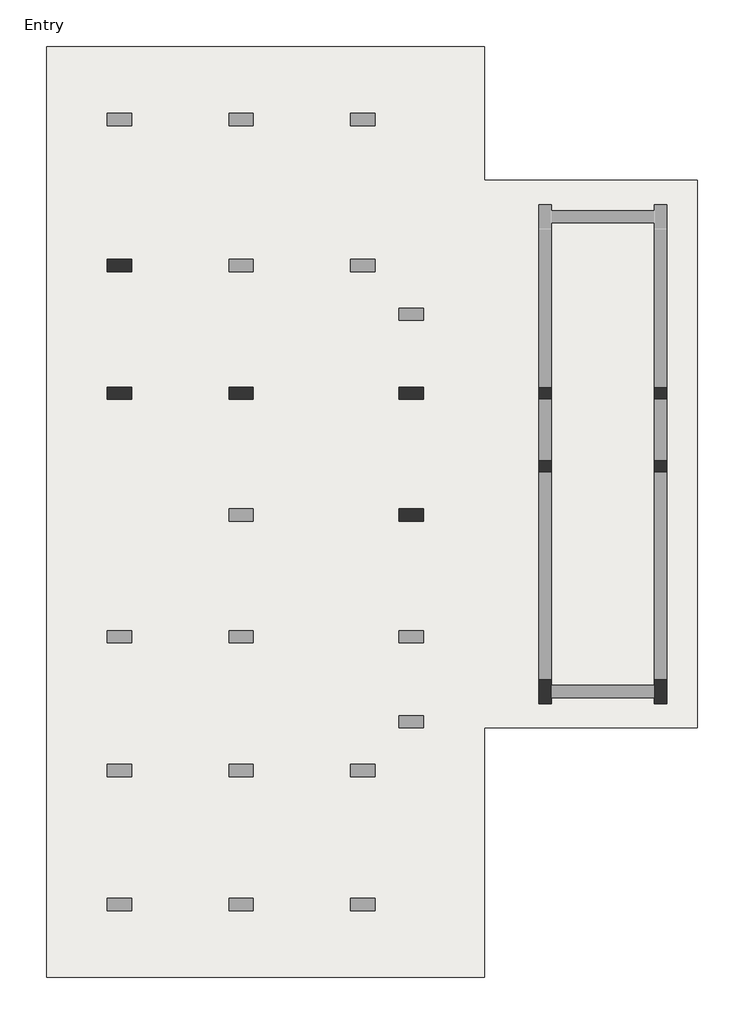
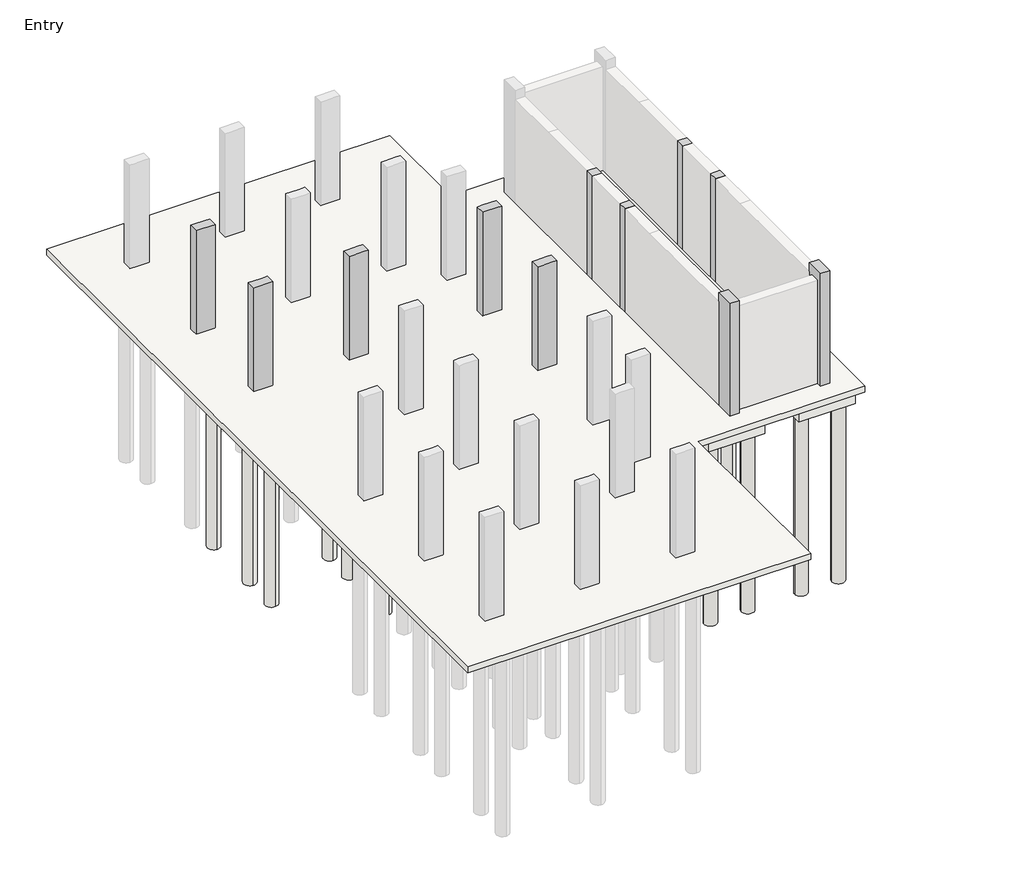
# One storey, part 2 of 3: 33 slabs, 13 columns, 4 footings.
"""IFC4 building model written with IfcOpenShell, lengths in millimetres."""

import ifcopenshell
import ifcopenshell.guid

model = None  # the IFC model being written
_history = None  # IfcOwnerHistory: only IFC2X3 demands one
_inside = {}  # id of a spatial element -> (the spatial element, [elements in it])
_under = {}  # id of a project, library or spatial element -> (it, [spatial elements below it])
_declared = {}  # id of a project -> (the project, [libraries it declares])
_typed = {}  # id of a type object -> (the type object, [elements of that type])
_made_of = {}  # id of a material, layer set ... -> (it, [elements and type objects made of it])


def new_model(schema):
    """Start an empty IFC model of exactly this schema.

    Asked for "IFC4X3", IfcOpenShell would pick the latest addendum, in which some entities
    have other attributes; the version numbers below select the first issue.
    IFC2X3 requires an IfcOwnerHistory on every rooted entity: one is made here for all.
    """
    global model, _history
    if schema == "IFC4X3":
        model = ifcopenshell.file(schema_version=(4, 3, 0, 0))
    else:
        model = ifcopenshell.file(schema=schema)
    _inside.clear()
    _under.clear()
    _declared.clear()
    _typed.clear()
    _made_of.clear()
    _history = None
    if model.schema == "IFC2X3":
        org = make("IfcOrganization", Name="unknown")
        user = make(
            "IfcPersonAndOrganization",
            ThePerson=make("IfcPerson", FamilyName="unknown"),
            TheOrganization=org,
        )
        app = make(
            "IfcApplication",
            ApplicationDeveloper=org,
            Version="unknown",
            ApplicationFullName="unknown",
            ApplicationIdentifier="unknown",
        )
        _history = make(
            "IfcOwnerHistory",
            OwningUser=user,
            OwningApplication=app,
            ChangeAction="ADDED",
            CreationDate=0,
        )
    return model


def make(cls, **values):
    """One entity of the class cls with the attributes given. An attribute that is None is left unset."""
    return model.create_entity(
        cls, **{name: value for name, value in values.items() if value is not None}
    )


def rooted(cls, **values):
    """An entity with a GlobalId (a new one), such as an element, a storey or a relation."""
    return make(cls, GlobalId=ifcopenshell.guid.new(), OwnerHistory=_history, **values)


def si_unit(unit_type, name, prefix=None):
    """IfcSIUnit, for example si_unit("LENGTHUNIT", "METRE", prefix="MILLI")."""
    return make("IfcSIUnit", UnitType=unit_type, Prefix=prefix, Name=name)


def assignment(units):
    """IfcUnitAssignment: the units of a project."""
    return None if units is None else make("IfcUnitAssignment", Units=units)


def point(xyz):
    """IfcCartesianPoint."""
    return None if xyz is None else make("IfcCartesianPoint", Coordinates=xyz)


def direction(xyz):
    """IfcDirection."""
    return None if xyz is None else make("IfcDirection", DirectionRatios=xyz)


def frame(location, z_axis=None, x_axis=None):
    """IfcAxis2Placement3D, a coordinate frame: its origin and axes. An axis left out is left unset."""
    return make(
        "IfcAxis2Placement3D",
        Location=point(location),
        Axis=direction(z_axis),
        RefDirection=direction(x_axis),
    )


def frame_2d(location, x_axis=None):
    """IfcAxis2Placement2D, a coordinate frame in the plane: its origin and x axis."""
    return make(
        "IfcAxis2Placement2D", Location=point(location), RefDirection=direction(x_axis)
    )


def origin():
    """The frame at (0, 0, 0) with its axes left unset."""
    return frame((0.0, 0.0, 0.0))


def origin_with_axes():
    """The frame at (0, 0, 0) with the z axis (0, 0, 1) and the x axis (1, 0, 0) written out."""
    return frame((0.0, 0.0, 0.0), z_axis=(0.0, 0.0, 1.0), x_axis=(1.0, 0.0, 0.0))


def place(relative_to, where):
    """IfcLocalPlacement: puts the frame where relative to a parent placement (None: the world)."""
    return make(
        "IfcLocalPlacement", PlacementRelTo=relative_to, RelativePlacement=where
    )


def context(
    kind, dimensions, precision=None, world=None, true_north=None, identifier=None
):
    """IfcGeometricRepresentationContext, for example the 3D "Model" context."""
    return make(
        "IfcGeometricRepresentationContext",
        ContextIdentifier=identifier,
        ContextType=kind,
        CoordinateSpaceDimension=dimensions,
        Precision=precision,
        WorldCoordinateSystem=world,
        TrueNorth=true_north,
    )


def project(units=None, contexts=None):
    """IfcProject with its units and contexts."""
    return rooted(
        "IfcProject",
        Name="project",
        RepresentationContexts=contexts,
        UnitsInContext=assignment(units),
    )


def spatial(cls, under=None, at=None, **own):
    """A site, building, storey or space (cls), placed at a placement, below another one or the project."""
    s = rooted(cls, ObjectPlacement=at, **own)
    if under is not None:
        _under.setdefault(under.id(), (under, []))[1].append(s)
    return s


def polyline(points):
    """IfcPolyline through the points."""
    return make("IfcPolyline", Points=[point(p) for p in points])


def circle_curve(where, radius):
    """IfcCircle in the frame where."""
    return make("IfcCircle", Position=where, Radius=radius)


def trimmed(basis, trim1, trim2, sense, master):
    """IfcTrimmedCurve: the piece of a basis curve between two trims."""
    return make(
        "IfcTrimmedCurve",
        BasisCurve=basis,
        Trim1=trim1,
        Trim2=trim2,
        SenseAgreement=sense,
        MasterRepresentation=master,
    )


def segment(curve, same_sense, transition):
    """IfcCompositeCurveSegment."""
    return make(
        "IfcCompositeCurveSegment",
        Transition=transition,
        SameSense=same_sense,
        ParentCurve=curve,
    )


def composite_curve(segments, self_intersect=None):
    """IfcCompositeCurve: segments joined end to end."""
    return make("IfcCompositeCurve", Segments=segments, SelfIntersect=self_intersect)


def outline(outer, holes=None, kind="AREA"):
    """IfcArbitraryClosedProfileDef: a profile drawn as a closed curve; with holes, ...WithVoids."""
    if holes is None:
        return make("IfcArbitraryClosedProfileDef", ProfileType=kind, OuterCurve=outer)
    return make(
        "IfcArbitraryProfileDefWithVoids",
        ProfileType=kind,
        OuterCurve=outer,
        InnerCurves=holes,
    )


def extrude(swept, where, along, depth):
    """IfcExtrudedAreaSolid: the profile swept, set in the frame where, extruded along a direction by depth."""
    return make(
        "IfcExtrudedAreaSolid",
        SweptArea=swept,
        Position=where,
        ExtrudedDirection=direction(along),
        Depth=depth,
    )


def faces_of(points, faces, orient=None, outer=None):
    """IfcFace entities. A face is a list of loops; a loop is a list of indices into points, from 0.

    orient and outer hold one flag for each loop. By default every Orientation is true, the
    first loop of a face is its IfcFaceOuterBound and the others are IfcFaceBound.
    """
    made = []
    for i, loops in enumerate(faces):
        bounds = []
        for j, loop in enumerate(loops):
            is_outer = j == 0 if outer is None else outer[i][j]
            bounds.append(
                make(
                    "IfcFaceOuterBound" if is_outer else "IfcFaceBound",
                    Bound=make("IfcPolyLoop", Polygon=[points[k] for k in loop]),
                    Orientation=True if orient is None else orient[i][j],
                )
            )
        made.append(make("IfcFace", Bounds=bounds))
    return made


def faceted_brep(points, faces, orient=None, outer=None, voids=None):
    """IfcFacetedBrep: a solid bounded by flat faces; with voids (closed shells), ...WithVoids."""
    shared = [point(p) for p in points]
    hull = make("IfcClosedShell", CfsFaces=faces_of(shared, faces, orient, outer))
    if voids is None:
        return make("IfcFacetedBrep", Outer=hull)
    return make(
        "IfcFacetedBrepWithVoids",
        Outer=hull,
        Voids=[
            make(cls, CfsFaces=faces_of(shared, fs, o, b)) for cls, fs, o, b in voids
        ],
    )


def shape(context_of_items, identifier, shape_type, items):
    """IfcShapeRepresentation: the items that make up one representation, for example the "Body"."""
    return make(
        "IfcShapeRepresentation",
        ContextOfItems=context_of_items,
        RepresentationIdentifier=identifier,
        RepresentationType=shape_type,
        Items=items,
    )


def made_of(thing, what):
    """Note that an element or type object is made of a material, layer set ...; save() writes the relation."""
    if what is not None:
        _made_of.setdefault(what.id(), (what, []))[1].append(thing)
    return thing


def element(
    cls,
    number,
    at=None,
    inside=None,
    cuts=None,
    type_object=None,
    material=None,
    context=None,
    identifier="Body",
    shape_type=None,
    held_by="IfcProductDefinitionShape",
    body=None,
    shapes=None,
    **own,
):
    """One element of the class cls, such as IfcWall. Its Tag is "e" and its number.

    at: its placement. inside: the storey or other place that contains it. cuts: it is an
    opening in that element (IfcRelVoidsElement). A single representation is given by context,
    identifier, shape_type and body (its items); several are given by shapes. held_by: the class
    of the entity that holds the representations. save() writes the other relations.
    """
    e = rooted(cls, Tag="e%d" % number, ObjectPlacement=at, **own)
    if body is not None:
        shapes = [shape(context, identifier, shape_type, body)]
    if shapes is not None:
        e.Representation = make(held_by, Representations=shapes)
    if inside is not None:
        _inside.setdefault(inside.id(), (inside, []))[1].append(e)
    if cuts is not None:
        rooted(
            "IfcRelVoidsElement", RelatingBuildingElement=cuts, RelatedOpeningElement=e
        )
    if type_object is not None:
        _typed.setdefault(type_object.id(), (type_object, []))[1].append(e)
    return made_of(e, material)


def aggregate(whole, parts):
    """IfcRelAggregates: a whole, such as a stair, and the parts it consists of."""
    return rooted("IfcRelAggregates", RelatingObject=whole, RelatedObjects=parts)


def save(model, path):
    """Write the relations noted so far, then the file.

    IfcRelAggregates (storeys below a building ...), IfcRelContainedInSpatialStructure (elements
    in a storey), IfcRelDefinesByType, IfcRelAssociatesMaterial and IfcRelDeclares: one each for
    every whole, place, type object, material and project.
    """
    for whole, parts in _under.values():
        aggregate(whole, parts)
    for where, things in _inside.values():
        rooted(
            "IfcRelContainedInSpatialStructure",
            RelatedElements=things,
            RelatingStructure=where,
        )
    for kind, things in _typed.values():
        rooted("IfcRelDefinesByType", RelatedObjects=things, RelatingType=kind)
    for what, things in _made_of.values():
        rooted("IfcRelAssociatesMaterial", RelatedObjects=things, RelatingMaterial=what)
    for by, libraries in _declared.values():
        rooted("IfcRelDeclares", RelatingContext=by, RelatedDefinitions=libraries)
    model.write(path)


model = new_model("IFC4")

# Units and contexts
model_context = context("Model", 3, world=origin())
ifc_project = project(units=[si_unit("LENGTHUNIT", "METRE", prefix="MILLI")], contexts=[model_context])

# Site, building, storey
site = spatial("IfcSite", under=ifc_project)
building = spatial("IfcBuilding", under=site)
storey = spatial("IfcBuildingStorey", under=building, Name="Entry", Elevation=0.0)

# Columns
placement = place(None, origin())
element("IfcColumn", 1, ObjectType="Concrete-Rectangular-Column : 12 x 24", at=placement, inside=storey, context=model_context, shape_type="Brep", body=[
    faceted_brep([(-15677.5554735, 10989.3867088, 0.0), (-15067.9554735, 10989.3867088, 0.0), (-15067.9554735, 10684.5867088, 0.0), (-15677.5554735, 10684.5867088, 0.0), (-15677.5554735, 10989.3867088, 3505.2), (-15525.1554735, 10989.3867088, 3505.2), (-15220.3554735, 10989.3867088, 3505.2), (-15067.9554735, 10989.3867088, 3505.2), (-15067.9554735, 10989.3867088, 2895.6), (-15067.9554735, 10684.5867088, 3505.2), (-15067.9554735, 10684.5867088, 2895.6), (-15220.3554735, 10684.5867088, 3505.2), (-15525.1554735, 10684.5867088, 3505.2), (-15677.5554735, 10684.5867088, 3505.2)], [[[0, 1, 2, 3]], [[4, 5, 6, 7, 8, 1, 0]], [[7, 9, 10, 2, 1, 8]], [[9, 11, 12, 13, 3, 2, 10]], [[13, 4, 0, 3]], [[4, 13, 12, 11, 9, 7, 6, 5]]]),
])
element("IfcColumn", 2, ObjectType="Concrete-Rectangular-Column : 12 x 24", at=placement, inside=storey, context=model_context, shape_type="Brep", body=[
    faceted_brep([(-8362.3554735, 7788.9867088, 0.0), (-7752.7554735, 7788.9867088, 0.0), (-7752.7554735, 7484.1867088, 0.0), (-8362.3554735, 7484.1867088, 0.0), (-8362.3554735, 7788.9867088, 3505.2), (-8209.9554735, 7788.9867088, 3505.2), (-7905.1554735, 7788.9867088, 3505.2), (-7752.7554735, 7788.9867088, 3505.2), (-7752.7554735, 7788.9867088, 2895.6), (-8362.3554735, 7788.9867088, 2895.6), (-7752.7554735, 7484.1867088, 3505.2), (-7752.7554735, 7484.1867088, 2895.6), (-7905.1554735, 7484.1867088, 3505.2), (-8209.9554735, 7484.1867088, 3505.2), (-8362.3554735, 7484.1867088, 3505.2), (-8362.3554735, 7484.1867088, 2895.6)], [[[0, 1, 2, 3]], [[4, 5, 6, 7, 8, 1, 0, 9]], [[7, 10, 11, 2, 1, 8]], [[10, 12, 13, 14, 15, 3, 2, 11]], [[14, 4, 9, 0, 3, 15]], [[4, 14, 13, 12, 10, 7, 6, 5]]]),
])
element("IfcColumn", 3, ObjectType="Concrete-Rectangular-Column : 12 x 24", at=placement, inside=storey, context=model_context, shape_type="Brep", body=[
    faceted_brep([(-15677.5554735, 7788.9867088, 0.0), (-15067.9554735, 7788.9867088, 0.0), (-15067.9554735, 7484.1867088, 0.0), (-15677.5554735, 7484.1867088, 0.0), (-15677.5554735, 7788.9867088, 3505.2), (-15525.1554735, 7788.9867088, 3505.2), (-15220.3554735, 7788.9867088, 3505.2), (-15067.9554735, 7788.9867088, 3505.2), (-15067.9554735, 7788.9867088, 2895.6), (-15067.9554735, 7484.1867088, 3505.2), (-15067.9554735, 7484.1867088, 2895.6), (-15677.5554735, 7484.1867088, 3505.2)], [[[0, 1, 2, 3]], [[4, 5, 6, 7, 8, 1, 0]], [[7, 9, 10, 2, 1, 8]], [[9, 11, 3, 2, 10]], [[11, 4, 0, 3]], [[4, 11, 9, 7, 6, 5]]]),
])
element("IfcColumn", 4, ObjectType="Concrete-Rectangular-Column : 12 x 24", at=placement, inside=storey, context=model_context, shape_type="Brep", body=[
    faceted_brep([(-12629.5554735, 7788.9867088, 0.0), (-12019.9554735, 7788.9867088, 0.0), (-12019.9554735, 7484.1867088, 0.0), (-12629.5554735, 7484.1867088, 0.0), (-12629.5554735, 7788.9867088, 3505.2), (-12477.1554735, 7788.9867088, 3505.2), (-12172.3554735, 7788.9867088, 3505.2), (-12019.9554735, 7788.9867088, 3505.2), (-12019.9554735, 7788.9867088, 2895.6), (-12629.5554735, 7788.9867088, 2895.6), (-12019.9554735, 7484.1867088, 3505.2), (-12019.9554735, 7484.1867088, 2895.6), (-12172.3554735, 7484.1867088, 3505.2), (-12477.1554735, 7484.1867088, 3505.2), (-12629.5554735, 7484.1867088, 3505.2), (-12629.5554735, 7484.1867088, 2895.6)], [[[0, 1, 2, 3]], [[4, 5, 6, 7, 8, 1, 0, 9]], [[7, 10, 11, 2, 1, 8]], [[10, 12, 13, 14, 15, 3, 2, 11]], [[14, 4, 9, 0, 3, 15]], [[4, 14, 13, 12, 10, 7, 6, 5]]]),
])
element("IfcColumn", 5, ObjectType="Concrete-Rectangular-Column : 12 x 24", at=placement, inside=storey, context=model_context, shape_type="Brep", body=[
    faceted_brep([(-8362.3554735, 4740.9867088, 0.0), (-7752.7554735, 4740.9867088, 0.0), (-7752.7554735, 4436.1867088, 0.0), (-8362.3554735, 4436.1867088, 0.0), (-8362.3554735, 4740.9867088, 3505.2), (-8209.9554735, 4740.9867088, 3505.2), (-7905.1554735, 4740.9867088, 3505.2), (-7752.7554735, 4740.9867088, 3505.2), (-8362.3554735, 4740.9867088, 2895.6), (-7752.7554735, 4436.1867088, 3505.2), (-7905.1554735, 4436.1867088, 3505.2), (-8209.9554735, 4436.1867088, 3505.2), (-8362.3554735, 4436.1867088, 3505.2), (-8362.3554735, 4436.1867088, 2895.6)], [[[0, 1, 2, 3]], [[4, 5, 6, 7, 1, 0, 8]], [[7, 9, 2, 1]], [[9, 10, 11, 12, 13, 3, 2]], [[12, 4, 8, 0, 3, 13]], [[4, 12, 11, 10, 9, 7, 6, 5]]]),
])
element("IfcColumn", 6, ObjectType="Concrete-Rectangular-Column : 12 x 24", at=placement, inside=storey, context=model_context, shape_type="SweptSolid", body=[
    extrude(outline(polyline([(-4857.1554735, 7788.9867088), (-4552.3554735, 7788.9867088), (-4552.3554735, 7484.1867088), (-4857.1554735, 7484.1867088), (-4857.1554735, 7788.9867088)])), origin_with_axes(), (0.0, 0.0, 1.0), 3505.2),
])
element("IfcColumn", 7, ObjectType="Concrete-Rectangular-Column : 12 x 24", at=placement, inside=storey, context=model_context, shape_type="SweptSolid", body=[
    extrude(outline(polyline([(-4552.3554735, 5655.3867088), (-4857.1554735, 5655.3867088), (-4857.1554735, 5960.1867088), (-4552.3554735, 5960.1867088), (-4552.3554735, 5655.3867088)])), origin_with_axes(), (0.0, 0.0, 1.0), 3505.2),
])
element("IfcColumn", 8, ObjectType="Concrete-Rectangular-Column : 12 x 24", at=placement, inside=storey, context=model_context, shape_type="Brep", body=[
    faceted_brep([(-4552.3554735, 473.7867088, 0.0), (-4552.3554735, 321.3867088, 0.0), (-4552.3554735, 16.5867088, 0.0), (-4552.3554735, -135.8132912, 0.0), (-4857.1554735, -135.8132912, 0.0), (-4857.1554735, 473.7867088, 0.0), (-4552.3554735, 473.7867088, 3810.0), (-4552.3554735, -135.8132912, 3810.0), (-4552.3554735, 473.7867088, 3505.2), (-4857.1554735, -135.8132912, 3810.0), (-4857.1554735, 473.7867088, 3810.0), (-4857.1554735, 473.7867088, 3505.2)], [[[0, 1, 2, 3, 4, 5]], [[6, 7, 3, 2, 1, 0, 8]], [[7, 9, 4, 3]], [[9, 10, 11, 5, 4]], [[10, 6, 8, 0, 5, 11]], [[6, 10, 9, 7]]]),
])
element("IfcColumn", 9, ObjectType="Concrete-Rectangular-Column : 12 x 24", at=placement, inside=storey, context=model_context, shape_type="Brep", body=[
    faceted_brep([(-1656.7554735, 473.7867088, 0.0), (-1656.7554735, -135.8132912, 0.0), (-1961.5554735, -135.8132912, 0.0), (-1961.5554735, 16.5867088, 0.0), (-1961.5554735, 321.3867088, 0.0), (-1961.5554735, 473.7867088, 0.0), (-1656.7554735, 473.7867088, 3810.0), (-1656.7554735, -135.8132912, 3810.0), (-1656.7554735, 473.7867088, 3505.2), (-1961.5554735, -135.8132912, 3810.0), (-1961.5554735, 473.7867088, 3810.0), (-1961.5554735, 473.7867088, 3505.2)], [[[0, 1, 2, 3, 4, 5]], [[6, 7, 1, 0, 8]], [[7, 9, 2, 1]], [[9, 10, 11, 5, 4, 3, 2]], [[10, 6, 8, 0, 5, 11]], [[6, 10, 9, 7]]]),
])
element("IfcColumn", 10, ObjectType="Concrete-Rectangular-Column : 12 x 24", at=placement, inside=storey, context=model_context, shape_type="SweptSolid", body=[
    extrude(outline(polyline([(-1961.5554735, 7788.9867088), (-1656.7554735, 7788.9867088), (-1656.7554735, 7484.1867088), (-1961.5554735, 7484.1867088), (-1961.5554735, 7788.9867088)])), origin_with_axes(), (0.0, 0.0, 1.0), 3505.2),
])
element("IfcColumn", 11, ObjectType="Concrete-Rectangular-Column : 12 x 24", at=placement, inside=storey, context=model_context, shape_type="SweptSolid", body=[
    extrude(outline(polyline([(-1961.5554735, 5960.1867088), (-1656.7554735, 5960.1867088), (-1656.7554735, 5655.3867088), (-1961.5554735, 5655.3867088), (-1961.5554735, 5960.1867088)])), origin_with_axes(), (0.0, 0.0, 1.0), 3505.2),
])
element("IfcColumn", 12, ObjectType="Concrete-Rectangular-Column : 12 x 24", at=placement, inside=storey, context=model_context, shape_type="Brep", body=[
    faceted_brep([(-8362.3554735, 7788.9867088, 0.0), (-7752.7554735, 7788.9867088, 0.0), (-7752.7554735, 7484.1867088, 0.0), (-8362.3554735, 7484.1867088, 0.0), (-8362.3554735, 7788.9867088, 3505.2), (-8209.9554735, 7788.9867088, 3505.2), (-7905.1554735, 7788.9867088, 3505.2), (-7752.7554735, 7788.9867088, 3505.2), (-7752.7554735, 7788.9867088, 2895.6), (-8362.3554735, 7788.9867088, 2895.6), (-7752.7554735, 7484.1867088, 3505.2), (-7752.7554735, 7484.1867088, 2895.6), (-7905.1554735, 7484.1867088, 3505.2), (-8209.9554735, 7484.1867088, 3505.2), (-8362.3554735, 7484.1867088, 3505.2), (-8362.3554735, 7484.1867088, 2895.6)], [[[0, 1, 2, 3]], [[4, 5, 6, 7, 8, 1, 0, 9]], [[7, 10, 11, 2, 1, 8]], [[10, 12, 13, 14, 15, 3, 2, 11]], [[14, 4, 9, 0, 3, 15]], [[4, 14, 13, 12, 10, 7, 6, 5]]]),
])
element("IfcColumn", 13, ObjectType="Concrete-Rectangular-Column : 12 x 24", at=placement, inside=storey, context=model_context, shape_type="Brep", body=[
    faceted_brep([(-12629.5554735, 7788.9867088, 0.0), (-12019.9554735, 7788.9867088, 0.0), (-12019.9554735, 7484.1867088, 0.0), (-12629.5554735, 7484.1867088, 0.0), (-12629.5554735, 7788.9867088, 3505.2), (-12477.1554735, 7788.9867088, 3505.2), (-12172.3554735, 7788.9867088, 3505.2), (-12019.9554735, 7788.9867088, 3505.2), (-12019.9554735, 7788.9867088, 2895.6), (-12629.5554735, 7788.9867088, 2895.6), (-12019.9554735, 7484.1867088, 3505.2), (-12019.9554735, 7484.1867088, 2895.6), (-12172.3554735, 7484.1867088, 3505.2), (-12477.1554735, 7484.1867088, 3505.2), (-12629.5554735, 7484.1867088, 3505.2), (-12629.5554735, 7484.1867088, 2895.6)], [[[0, 1, 2, 3]], [[4, 5, 6, 7, 8, 1, 0, 9]], [[7, 10, 11, 2, 1, 8]], [[10, 12, 13, 14, 15, 3, 2, 11]], [[14, 4, 9, 0, 3, 15]], [[4, 14, 13, 12, 10, 7, 6, 5]]]),
])

# Footings
element("IfcFooting", 14, ObjectType="Bearing Footing - 36\" x 12\"", at=placement, inside=storey, context=model_context, shape_type="Brep", body=[
    faceted_brep([(-1351.9554735, 5655.3867088, -304.8), (-1402.7554735, 5655.3867088, -304.8), (-1402.7554735, 5655.3867088, -203.2), (-1351.9554735, 5655.3867088, -203.2), (-2215.5554735, 5655.3867088, -304.8), (-2266.3554735, 5655.3867088, -304.8), (-2266.3554735, 5655.3867088, -203.2), (-2215.5554735, 5655.3867088, -203.2), (-2266.3554735, 626.1867088, -304.8), (-2266.3554735, 575.3867088, -304.8), (-2266.3554735, 575.3867088, -203.2), (-2266.3554735, 626.1867088, -203.2), (-1351.9554735, 575.3867088, -304.8), (-2215.5554735, 4906.0867088, -304.8), (-1402.7554735, 4906.0867088, -304.8), (-1351.9554735, 575.3867088, -203.2), (-1402.7554735, 4906.0867088, -203.2), (-2215.5554735, 4906.0867088, -203.2)], [[[0, 1, 2, 3]], [[4, 5, 6, 7]], [[5, 8, 9, 10, 11, 6]], [[1, 0, 12, 9, 8, 5, 4, 13, 14]], [[12, 0, 3, 15]], [[1, 14, 16, 2]], [[13, 4, 7, 17]], [[14, 13, 17, 16]], [[9, 12, 15, 10]], [[7, 6, 11, 10, 15, 3, 2, 16, 17]]]),
])
element("IfcFooting", 15, ObjectType="Bearing Footing - 36\" x 12\"", at=placement, inside=storey, context=model_context, shape_type="Brep", body=[
    faceted_brep([(-4552.3554735, -237.4132912, -304.8), (-4552.3554735, -288.2132912, -304.8), (-4552.3554735, -288.2132912, -203.2), (-4552.3554735, -237.4132912, -203.2), (-4552.3554735, 626.1867088, -304.8), (-4552.3554735, 575.3867088, -304.8), (-4552.3554735, 575.3867088, -203.2), (-4552.3554735, 626.1867088, -203.2), (-1961.5554735, -288.2132912, -304.8), (-1961.5554735, -237.4132912, -304.8), (-1961.5554735, -237.4132912, -203.2), (-1961.5554735, -288.2132912, -203.2), (-2266.3554735, 626.1867088, -304.8), (-4247.5554735, 626.1867088, -304.8), (-4247.5554735, 626.1867088, -203.2), (-2266.3554735, 626.1867088, -203.2), (-3803.0554735, -237.4132912, -304.8), (-3803.0554735, 575.3867088, -304.8), (-2266.3554735, 575.3867088, -304.8), (-2710.8554735, 575.3867088, -304.8), (-2710.8554735, -237.4132912, -304.8), (-3803.0554735, 575.3867088, -203.2), (-3803.0554735, -237.4132912, -203.2), (-2266.3554735, 575.3867088, -203.2), (-2710.8554735, 575.3867088, -203.2), (-2710.8554735, -237.4132912, -203.2)], [[[0, 1, 2, 3]], [[4, 5, 6, 7]], [[8, 9, 10, 11]], [[12, 13, 4, 7, 14, 15]], [[8, 1, 0, 16, 17, 5, 4, 13, 12, 18, 19, 20, 9]], [[1, 8, 11, 2]], [[5, 17, 21, 6]], [[16, 0, 3, 22]], [[17, 16, 22, 21]], [[19, 18, 23, 24]], [[20, 19, 24, 25]], [[9, 20, 25, 10]], [[18, 12, 15, 23]], [[7, 6, 21, 22, 3, 2, 11, 10, 25, 24, 23, 15, 14]]]),
])
element("IfcFooting", 16, ObjectType="Bearing Footing - 36\" x 12\"", at=placement, inside=storey, context=model_context, shape_type="SweptSolid", body=[
    extrude(outline(polyline([(-4298.3554735, 5655.3867088), (-4247.5554735, 5655.3867088), (-4247.5554735, 626.1867088), (-4552.3554735, 626.1867088), (-4552.3554735, 575.3867088), (-5161.9554735, 575.3867088), (-5161.9554735, 5655.3867088), (-5111.1554735, 5655.3867088), (-5111.1554735, 4906.0867088), (-4298.3554735, 4906.0867088), (-4298.3554735, 5655.3867088)])), frame((0.0, 0.0, -304.8), z_axis=(0.0, 0.0, 1.0), x_axis=(1.0, 0.0, 0.0)), (0.0, 0.0, 1.0), 101.6),
])
element("IfcFooting", 17, ObjectType="Bearing Footing - 36\" x 12\"", at=placement, inside=storey, context=model_context, shape_type="SweptSolid", body=[
    extrude(outline(polyline([(-1351.9554735, 7484.1867088), (-1351.9554735, 5960.1867088), (-1402.7554735, 5960.1867088), (-1402.7554735, 6709.4867088), (-2215.5554735, 6709.4867088), (-2215.5554735, 5960.1867088), (-2266.3554735, 5960.1867088), (-2266.3554735, 7484.1867088), (-2215.5554735, 7484.1867088), (-2215.5554735, 6734.8867088), (-1402.7554735, 6734.8867088), (-1402.7554735, 7484.1867088), (-1351.9554735, 7484.1867088)])), frame((0.0, 0.0, -304.8), z_axis=(0.0, 0.0, 1.0), x_axis=(1.0, 0.0, 0.0)), (0.0, 0.0, 1.0), 101.6),
])

# Slabs
element("IfcSlab", 18, ObjectType="8\" Foundation Slab", at=placement, inside=storey, context=model_context, shape_type="SweptSolid", body=[
    extrude(outline(polyline([(-6228.7554735, 16323.3867088), (-6228.7554735, 12970.5867088), (-894.7554735, 12970.5867088), (-894.7554735, -745.4132912), (-6228.7554735, -745.4132912), (-6228.7554735, -6993.8132912), (-17201.5554735, -6993.8132912), (-17201.5554735, 16323.3867088), (-6228.7554735, 16323.3867088)])), frame((0.0, 0.0, -203.2), z_axis=(0.0, 0.0, 1.0), x_axis=(1.0, 0.0, 0.0)), (0.0, 0.0, 1.0), 203.2),
])
element("IfcSlab", 19, ObjectType="Pile Cap-2 Pile : 31\"x61\"x35\"", at=placement, inside=storey, context=model_context, shape_type="SweptSolid", body=[
    extrude(outline(polyline([(-15779.1554735, 11738.6867088), (-14966.3554735, 11738.6867088), (-14966.3554735, 9935.2867088), (-15779.1554735, 9935.2867088), (-15779.1554735, 11738.6867088)])), frame((0.0, 0.0, -889.0), z_axis=(0.0, 0.0, 1.0), x_axis=(1.0, 0.0, 0.0)), (0.0, 0.0, 1.0), 685.8),
])
element("IfcSlab", 20, ObjectType="Pile Cap-2 Pile : 31\"x61\"x35\"", at=placement, inside=storey, context=model_context, shape_type="SweptSolid", body=[
    extrude(outline(polyline([(-15779.1554735, 8538.2867088), (-14966.3554735, 8538.2867088), (-14966.3554735, 6734.8867088), (-15779.1554735, 6734.8867088), (-15779.1554735, 8538.2867088)])), frame((0.0, 0.0, -889.0), z_axis=(0.0, 0.0, 1.0), x_axis=(1.0, 0.0, 0.0)), (0.0, 0.0, 1.0), 685.8),
])
element("IfcSlab", 21, ObjectType="Pile Cap-2 Pile : 31\"x61\"x35\"", at=placement, inside=storey, context=model_context, shape_type="SweptSolid", body=[
    extrude(outline(polyline([(-8463.9554735, 5490.2867088), (-7651.1554735, 5490.2867088), (-7651.1554735, 3686.8867088), (-8463.9554735, 3686.8867088), (-8463.9554735, 5490.2867088)])), frame((0.0, 0.0, -889.0), z_axis=(0.0, 0.0, 1.0), x_axis=(1.0, 0.0, 0.0)), (0.0, 0.0, 1.0), 685.8),
])
element("IfcSlab", 22, ObjectType="Pile Cap-2 Pile : 31\"x61\"x35\"", at=placement, inside=storey, context=model_context, shape_type="SweptSolid", body=[
    extrude(outline(polyline([(-8463.9554735, 8538.2867088), (-7651.1554735, 8538.2867088), (-7651.1554735, 6734.8867088), (-8463.9554735, 6734.8867088), (-8463.9554735, 8538.2867088)])), frame((0.0, 0.0, -889.0), z_axis=(0.0, 0.0, 1.0), x_axis=(1.0, 0.0, 0.0)), (0.0, 0.0, 1.0), 685.8),
])
element("IfcSlab", 23, ObjectType="Pile Cap-2 Pile : 31\"x61\"x35\"", at=placement, inside=storey, context=model_context, shape_type="Brep", body=[
    faceted_brep([(-5111.1554735, 8538.2867088, -889.0), (-4298.3554735, 8538.2867088, -889.0), (-4298.3554735, 6734.8867088, -889.0), (-5111.1554735, 6734.8867088, -889.0), (-5111.1554735, 6734.8867088, -203.2), (-5111.1554735, 7788.9867088, -203.2), (-5111.1554735, 8538.2867088, -203.2), (-5111.1554735, 8538.2867088, -304.8), (-4298.3554735, 6734.8867088, -203.2), (-4298.3554735, 8538.2867088, -304.8), (-4298.3554735, 8538.2867088, -203.2), (-4298.3554735, 7788.9867088, -203.2)], [[[0, 1, 2, 3]], [[0, 3, 4, 5, 6, 7]], [[3, 2, 8, 4]], [[2, 1, 9, 10, 11, 8]], [[1, 0, 7, 6, 10, 9]], [[6, 5, 4, 8, 11, 10]]]),
])
element("IfcSlab", 24, ObjectType="Pile Cap-2 Pile : 31\"x61\"x35\"", at=placement, inside=storey, context=model_context, shape_type="Brep", body=[
    faceted_brep([(-2215.5554735, 8538.2867088, -889.0), (-1402.7554735, 8538.2867088, -889.0), (-1402.7554735, 6734.8867088, -889.0), (-2215.5554735, 6734.8867088, -889.0), (-2215.5554735, 6734.8867088, -304.8), (-2215.5554735, 6734.8867088, -203.2), (-2215.5554735, 7484.1867088, -203.2), (-2215.5554735, 7788.9867088, -203.2), (-2215.5554735, 8538.2867088, -203.2), (-2215.5554735, 8538.2867088, -304.8), (-1402.7554735, 6734.8867088, -304.8), (-1402.7554735, 6734.8867088, -203.2), (-1402.7554735, 8538.2867088, -304.8), (-1402.7554735, 8538.2867088, -203.2), (-1402.7554735, 7788.9867088, -203.2), (-1402.7554735, 7484.1867088, -203.2)], [[[0, 1, 2, 3]], [[0, 3, 4, 5, 6, 7, 8, 9]], [[3, 2, 10, 11, 5, 4]], [[2, 1, 12, 13, 14, 15, 11, 10]], [[1, 0, 9, 8, 13, 12]], [[8, 7, 6, 5, 11, 15, 14, 13]]]),
])
element("IfcSlab", 25, ObjectType="Pile Cap-2 Pile : 31\"x61\"x35\"", at=placement, inside=storey, context=model_context, shape_type="Brep", body=[
    faceted_brep([(-4298.3554735, 4906.0867088, -889.0), (-5111.1554735, 4906.0867088, -889.0), (-5111.1554735, 6709.4867088, -889.0), (-4298.3554735, 6709.4867088, -889.0), (-4298.3554735, 6709.4867088, -203.2), (-4298.3554735, 5655.3867088, -203.2), (-4298.3554735, 4906.0867088, -203.2), (-4298.3554735, 4906.0867088, -304.8), (-5111.1554735, 6709.4867088, -203.2), (-5111.1554735, 4906.0867088, -304.8), (-5111.1554735, 4906.0867088, -203.2), (-5111.1554735, 5655.3867088, -203.2)], [[[0, 1, 2, 3]], [[0, 3, 4, 5, 6, 7]], [[3, 2, 8, 4]], [[2, 1, 9, 10, 11, 8]], [[1, 0, 7, 6, 10, 9]], [[6, 5, 4, 8, 11, 10]]]),
])
element("IfcSlab", 26, ObjectType="Pile Cap-2 Pile : 31\"x61\"x35\"", at=placement, inside=storey, context=model_context, shape_type="Brep", body=[
    faceted_brep([(-1402.7554735, 4906.0867088, -889.0), (-2215.5554735, 4906.0867088, -889.0), (-2215.5554735, 6709.4867088, -889.0), (-1402.7554735, 6709.4867088, -889.0), (-1402.7554735, 6709.4867088, -304.8), (-1402.7554735, 6709.4867088, -203.2), (-1402.7554735, 5960.1867088, -203.2), (-1402.7554735, 5655.3867088, -203.2), (-1402.7554735, 4906.0867088, -203.2), (-1402.7554735, 4906.0867088, -304.8), (-2215.5554735, 6709.4867088, -304.8), (-2215.5554735, 6709.4867088, -203.2), (-2215.5554735, 4906.0867088, -304.8), (-2215.5554735, 4906.0867088, -203.2), (-2215.5554735, 5655.3867088, -203.2), (-2215.5554735, 5960.1867088, -203.2)], [[[0, 1, 2, 3]], [[0, 3, 4, 5, 6, 7, 8, 9]], [[3, 2, 10, 11, 5, 4]], [[2, 1, 12, 13, 14, 15, 11, 10]], [[1, 0, 9, 8, 13, 12]], [[8, 7, 6, 5, 11, 15, 14, 13]]]),
])
element("IfcSlab", 27, ObjectType="Pile Cap-2 Pile : 31\"x61\"x35\"", at=placement, inside=storey, context=model_context, shape_type="Brep", body=[
    faceted_brep([(-3803.0554735, 575.3867088, -889.0), (-3803.0554735, -237.4132912, -889.0), (-5606.4554735, -237.4132912, -889.0), (-5606.4554735, 575.3867088, -889.0), (-5606.4554735, 575.3867088, -203.2), (-5161.9554735, 575.3867088, -203.2), (-4552.3554735, 575.3867088, -203.2), (-3803.0554735, 575.3867088, -203.2), (-3803.0554735, 575.3867088, -304.8), (-5606.4554735, -237.4132912, -203.2), (-3803.0554735, -237.4132912, -304.8), (-3803.0554735, -237.4132912, -203.2), (-4552.3554735, -237.4132912, -203.2)], [[[0, 1, 2, 3]], [[0, 3, 4, 5, 6, 7, 8]], [[3, 2, 9, 4]], [[2, 1, 10, 11, 12, 9]], [[1, 0, 8, 7, 11, 10]], [[7, 6, 5, 4, 9, 12, 11]]]),
])
element("IfcSlab", 28, ObjectType="Pile Cap-2 Pile : 31\"x61\"x35\"", at=placement, inside=storey, context=model_context, shape_type="Brep", body=[
    faceted_brep([(-907.4554735, 575.3867088, -889.0), (-907.4554735, -237.4132912, -889.0), (-2710.8554735, -237.4132912, -889.0), (-2710.8554735, 575.3867088, -889.0), (-2710.8554735, 575.3867088, -304.8), (-2710.8554735, 575.3867088, -203.2), (-2266.3554735, 575.3867088, -203.2), (-1351.9554735, 575.3867088, -203.2), (-907.4554735, 575.3867088, -203.2), (-2710.8554735, -237.4132912, -304.8), (-2710.8554735, -237.4132912, -203.2), (-907.4554735, -237.4132912, -203.2), (-1961.5554735, -237.4132912, -203.2)], [[[0, 1, 2, 3]], [[0, 3, 4, 5, 6, 7, 8]], [[3, 2, 9, 10, 5, 4]], [[2, 1, 11, 12, 10, 9]], [[1, 0, 8, 11]], [[8, 7, 6, 5, 10, 12, 11]]]),
])
element("IfcSlab", 29, ObjectType="Pile Cap-4 Pile : 72\"x72\"x35\"", at=placement, inside=storey, context=model_context, shape_type="SweptSolid", body=[
    extrude(outline(polyline([(-13239.1554735, 8550.9867088), (-11410.3554735, 8550.9867088), (-11410.3554735, 6722.1867088), (-13239.1554735, 6722.1867088), (-13239.1554735, 8550.9867088)])), frame((0.0, 0.0, -889.0), z_axis=(0.0, 0.0, 1.0), x_axis=(1.0, 0.0, 0.0)), (0.0, 0.0, 1.0), 685.8),
])
element("IfcSlab", 30, ObjectType="Pile-Steel Pipe : 16\" Diameter", at=placement, inside=storey, context=model_context, shape_type="SweptSolid", body=[
    extrude(outline(composite_curve([segment(trimmed(circle_curve(frame_2d((-12858.1554735, 7103.1867088)), 203.2), [point((-12858.1554735, 6899.9867088))], [point((-12858.1554735, 7306.3867088))], False, "CARTESIAN"), True, "CONTINUOUS"), segment(trimmed(circle_curve(frame_2d((-12858.1554735, 7103.1867088)), 203.2), [point((-12858.1554735, 7306.3867088))], [point((-12858.1554735, 6899.9867088))], False, "CARTESIAN"), True, "CONTINUOUS")], self_intersect=False)), frame((0.0, 0.0, -6985.0), z_axis=(0.0, 0.0, 1.0), x_axis=(1.0, 0.0, 0.0)), (0.0, 0.0, 1.0), 6096.0),
])
element("IfcSlab", 31, ObjectType="Pile-Steel Pipe : 16\" Diameter", at=placement, inside=storey, context=model_context, shape_type="SweptSolid", body=[
    extrude(outline(composite_curve([segment(trimmed(circle_curve(frame_2d((-11791.3554735, 7103.1867088)), 203.2), [point((-11791.3554735, 6899.9867088))], [point((-11791.3554735, 7306.3867088))], False, "CARTESIAN"), True, "CONTINUOUS"), segment(trimmed(circle_curve(frame_2d((-11791.3554735, 7103.1867088)), 203.2), [point((-11791.3554735, 7306.3867088))], [point((-11791.3554735, 6899.9867088))], False, "CARTESIAN"), True, "CONTINUOUS")], self_intersect=False)), frame((0.0, 0.0, -6985.0), z_axis=(0.0, 0.0, 1.0), x_axis=(1.0, 0.0, 0.0)), (0.0, 0.0, 1.0), 6096.0),
])
element("IfcSlab", 32, ObjectType="Pile-Steel Pipe : 16\" Diameter", at=placement, inside=storey, context=model_context, shape_type="SweptSolid", body=[
    extrude(outline(composite_curve([segment(trimmed(circle_curve(frame_2d((-12858.1554735, 8169.9867088)), 203.2), [point((-12858.1554735, 7966.7867088))], [point((-12858.1554735, 8373.1867088))], False, "CARTESIAN"), True, "CONTINUOUS"), segment(trimmed(circle_curve(frame_2d((-12858.1554735, 8169.9867088)), 203.2), [point((-12858.1554735, 8373.1867088))], [point((-12858.1554735, 7966.7867088))], False, "CARTESIAN"), True, "CONTINUOUS")], self_intersect=False)), frame((0.0, 0.0, -6985.0), z_axis=(0.0, 0.0, 1.0), x_axis=(1.0, 0.0, 0.0)), (0.0, 0.0, 1.0), 6096.0),
])
element("IfcSlab", 33, ObjectType="Pile-Steel Pipe : 16\" Diameter", at=placement, inside=storey, context=model_context, shape_type="SweptSolid", body=[
    extrude(outline(composite_curve([segment(trimmed(circle_curve(frame_2d((-11791.3554735, 4055.1867088)), 203.2), [point((-11791.3554735, 3851.9867088))], [point((-11791.3554735, 4258.3867088))], False, "CARTESIAN"), True, "CONTINUOUS"), segment(trimmed(circle_curve(frame_2d((-11791.3554735, 4055.1867088)), 203.2), [point((-11791.3554735, 4258.3867088))], [point((-11791.3554735, 3851.9867088))], False, "CARTESIAN"), True, "CONTINUOUS")], self_intersect=False)), frame((0.0, 0.0, -6985.0), z_axis=(0.0, 0.0, 1.0), x_axis=(1.0, 0.0, 0.0)), (0.0, 0.0, 1.0), 6096.0),
])
element("IfcSlab", 34, ObjectType="Pile-Steel Pipe : 16\" Diameter", at=placement, inside=storey, context=model_context, shape_type="SweptSolid", body=[
    extrude(outline(composite_curve([segment(trimmed(circle_curve(frame_2d((-11791.3554735, 5121.9867088)), 203.2), [point((-11791.3554735, 4918.7867088))], [point((-11791.3554735, 5325.1867088))], False, "CARTESIAN"), True, "CONTINUOUS"), segment(trimmed(circle_curve(frame_2d((-11791.3554735, 5121.9867088)), 203.2), [point((-11791.3554735, 5325.1867088))], [point((-11791.3554735, 4918.7867088))], False, "CARTESIAN"), True, "CONTINUOUS")], self_intersect=False)), frame((0.0, 0.0, -6985.0), z_axis=(0.0, 0.0, 1.0), x_axis=(1.0, 0.0, 0.0)), (0.0, 0.0, 1.0), 6096.0),
])
element("IfcSlab", 35, ObjectType="Pile-Steel Pipe : 16\" Diameter", at=placement, inside=storey, context=model_context, shape_type="SweptSolid", body=[
    extrude(outline(composite_curve([segment(trimmed(circle_curve(frame_2d((-12858.1554735, 5121.9867088)), 203.2), [point((-12858.1554735, 4918.7867088))], [point((-12858.1554735, 5325.1867088))], False, "CARTESIAN"), True, "CONTINUOUS"), segment(trimmed(circle_curve(frame_2d((-12858.1554735, 5121.9867088)), 203.2), [point((-12858.1554735, 5325.1867088))], [point((-12858.1554735, 4918.7867088))], False, "CARTESIAN"), True, "CONTINUOUS")], self_intersect=False)), frame((0.0, 0.0, -6985.0), z_axis=(0.0, 0.0, 1.0), x_axis=(1.0, 0.0, 0.0)), (0.0, 0.0, 1.0), 6096.0),
])
element("IfcSlab", 36, ObjectType="Pile-Steel Pipe : 16\" Diameter", at=placement, inside=storey, context=model_context, shape_type="SweptSolid", body=[
    extrude(outline(composite_curve([segment(trimmed(circle_curve(frame_2d((-15372.7554735, 10240.0867088)), 203.2), [point((-15372.7554735, 10036.8867088))], [point((-15372.7554735, 10443.2867088))], False, "CARTESIAN"), True, "CONTINUOUS"), segment(trimmed(circle_curve(frame_2d((-15372.7554735, 10240.0867088)), 203.2), [point((-15372.7554735, 10443.2867088))], [point((-15372.7554735, 10036.8867088))], False, "CARTESIAN"), True, "CONTINUOUS")], self_intersect=False)), frame((0.0, 0.0, -6985.0), z_axis=(0.0, 0.0, 1.0), x_axis=(1.0, 0.0, 0.0)), (0.0, 0.0, 1.0), 6096.0),
])
element("IfcSlab", 37, ObjectType="Pile-Steel Pipe : 16\" Diameter", at=placement, inside=storey, context=model_context, shape_type="SweptSolid", body=[
    extrude(outline(composite_curve([segment(trimmed(circle_curve(frame_2d((-15372.7554735, 8233.4867088)), 203.2), [point((-15372.7554735, 8030.2867088))], [point((-15372.7554735, 8436.6867088))], False, "CARTESIAN"), True, "CONTINUOUS"), segment(trimmed(circle_curve(frame_2d((-15372.7554735, 8233.4867088)), 203.2), [point((-15372.7554735, 8436.6867088))], [point((-15372.7554735, 8030.2867088))], False, "CARTESIAN"), True, "CONTINUOUS")], self_intersect=False)), frame((0.0, 0.0, -6985.0), z_axis=(0.0, 0.0, 1.0), x_axis=(1.0, 0.0, 0.0)), (0.0, 0.0, 1.0), 6096.0),
])
element("IfcSlab", 38, ObjectType="Pile-Steel Pipe : 16\" Diameter", at=placement, inside=storey, context=model_context, shape_type="SweptSolid", body=[
    extrude(outline(composite_curve([segment(trimmed(circle_curve(frame_2d((-15372.7554735, 7039.6867088)), 203.2), [point((-15372.7554735, 6836.4867088))], [point((-15372.7554735, 7242.8867088))], False, "CARTESIAN"), True, "CONTINUOUS"), segment(trimmed(circle_curve(frame_2d((-15372.7554735, 7039.6867088)), 203.2), [point((-15372.7554735, 7242.8867088))], [point((-15372.7554735, 6836.4867088))], False, "CARTESIAN"), True, "CONTINUOUS")], self_intersect=False)), frame((0.0, 0.0, -6985.0), z_axis=(0.0, 0.0, 1.0), x_axis=(1.0, 0.0, 0.0)), (0.0, 0.0, 1.0), 6096.0),
])
element("IfcSlab", 39, ObjectType="Pile-Steel Pipe : 16\" Diameter", at=placement, inside=storey, context=model_context, shape_type="SweptSolid", body=[
    extrude(outline(composite_curve([segment(trimmed(circle_curve(frame_2d((-8057.5554735, 5185.4867088)), 203.2), [point((-8057.5554735, 4982.2867088))], [point((-8057.5554735, 5388.6867088))], False, "CARTESIAN"), True, "CONTINUOUS"), segment(trimmed(circle_curve(frame_2d((-8057.5554735, 5185.4867088)), 203.2), [point((-8057.5554735, 5388.6867088))], [point((-8057.5554735, 4982.2867088))], False, "CARTESIAN"), True, "CONTINUOUS")], self_intersect=False)), frame((0.0, 0.0, -6985.0), z_axis=(0.0, 0.0, 1.0), x_axis=(1.0, 0.0, 0.0)), (0.0, 0.0, 1.0), 6096.0),
])
element("IfcSlab", 40, ObjectType="Pile-Steel Pipe : 16\" Diameter", at=placement, inside=storey, context=model_context, shape_type="SweptSolid", body=[
    extrude(outline(composite_curve([segment(trimmed(circle_curve(frame_2d((-8057.5554735, 7039.6867088)), 203.2), [point((-8057.5554735, 6836.4867088))], [point((-8057.5554735, 7242.8867088))], False, "CARTESIAN"), True, "CONTINUOUS"), segment(trimmed(circle_curve(frame_2d((-8057.5554735, 7039.6867088)), 203.2), [point((-8057.5554735, 7242.8867088))], [point((-8057.5554735, 6836.4867088))], False, "CARTESIAN"), True, "CONTINUOUS")], self_intersect=False)), frame((0.0, 0.0, -6985.0), z_axis=(0.0, 0.0, 1.0), x_axis=(1.0, 0.0, 0.0)), (0.0, 0.0, 1.0), 6096.0),
])
element("IfcSlab", 41, ObjectType="Pile-Steel Pipe : 16\" Diameter", at=placement, inside=storey, context=model_context, shape_type="SweptSolid", body=[
    extrude(outline(composite_curve([segment(trimmed(circle_curve(frame_2d((-4704.7554735, 7039.6867088)), 203.2), [point((-4704.7554735, 6836.4867088))], [point((-4704.7554735, 7242.8867088))], False, "CARTESIAN"), True, "CONTINUOUS"), segment(trimmed(circle_curve(frame_2d((-4704.7554735, 7039.6867088)), 203.2), [point((-4704.7554735, 7242.8867088))], [point((-4704.7554735, 6836.4867088))], False, "CARTESIAN"), True, "CONTINUOUS")], self_intersect=False)), frame((0.0, 0.0, -6985.0), z_axis=(0.0, 0.0, 1.0), x_axis=(1.0, 0.0, 0.0)), (0.0, 0.0, 1.0), 6096.0),
])
element("IfcSlab", 42, ObjectType="Pile-Steel Pipe : 16\" Diameter", at=placement, inside=storey, context=model_context, shape_type="SweptSolid", body=[
    extrude(outline(composite_curve([segment(trimmed(circle_curve(frame_2d((-1809.1554735, 7039.6867088)), 203.2), [point((-1809.1554735, 6836.4867088))], [point((-1809.1554735, 7242.8867088))], False, "CARTESIAN"), True, "CONTINUOUS"), segment(trimmed(circle_curve(frame_2d((-1809.1554735, 7039.6867088)), 203.2), [point((-1809.1554735, 7242.8867088))], [point((-1809.1554735, 6836.4867088))], False, "CARTESIAN"), True, "CONTINUOUS")], self_intersect=False)), frame((0.0, 0.0, -6985.0), z_axis=(0.0, 0.0, 1.0), x_axis=(1.0, 0.0, 0.0)), (0.0, 0.0, 1.0), 6096.0),
])
element("IfcSlab", 43, ObjectType="Pile-Steel Pipe : 16\" Diameter", at=placement, inside=storey, context=model_context, shape_type="SweptSolid", body=[
    extrude(outline(composite_curve([segment(trimmed(circle_curve(frame_2d((-4704.7554735, 5210.8867088)), 203.2), [point((-4704.7554735, 5414.0867088))], [point((-4704.7554735, 5007.6867088))], False, "CARTESIAN"), True, "CONTINUOUS"), segment(trimmed(circle_curve(frame_2d((-4704.7554735, 5210.8867088)), 203.2), [point((-4704.7554735, 5007.6867088))], [point((-4704.7554735, 5414.0867088))], False, "CARTESIAN"), True, "CONTINUOUS")], self_intersect=False)), frame((0.0, 0.0, -6985.0), z_axis=(0.0, 0.0, 1.0), x_axis=(1.0, 0.0, 0.0)), (0.0, 0.0, 1.0), 6096.0),
])
element("IfcSlab", 44, ObjectType="Pile-Steel Pipe : 16\" Diameter", at=placement, inside=storey, context=model_context, shape_type="SweptSolid", body=[
    extrude(outline(composite_curve([segment(trimmed(circle_curve(frame_2d((-4704.7554735, 6404.6867088)), 203.2), [point((-4704.7554735, 6607.8867088))], [point((-4704.7554735, 6201.4867088))], False, "CARTESIAN"), True, "CONTINUOUS"), segment(trimmed(circle_curve(frame_2d((-4704.7554735, 6404.6867088)), 203.2), [point((-4704.7554735, 6201.4867088))], [point((-4704.7554735, 6607.8867088))], False, "CARTESIAN"), True, "CONTINUOUS")], self_intersect=False)), frame((0.0, 0.0, -6985.0), z_axis=(0.0, 0.0, 1.0), x_axis=(1.0, 0.0, 0.0)), (0.0, 0.0, 1.0), 6096.0),
])
element("IfcSlab", 45, ObjectType="Pile-Steel Pipe : 16\" Diameter", at=placement, inside=storey, context=model_context, shape_type="SweptSolid", body=[
    extrude(outline(composite_curve([segment(trimmed(circle_curve(frame_2d((-1809.1554735, 5210.8867088)), 203.2), [point((-1809.1554735, 5414.0867088))], [point((-1809.1554735, 5007.6867088))], False, "CARTESIAN"), True, "CONTINUOUS"), segment(trimmed(circle_curve(frame_2d((-1809.1554735, 5210.8867088)), 203.2), [point((-1809.1554735, 5007.6867088))], [point((-1809.1554735, 5414.0867088))], False, "CARTESIAN"), True, "CONTINUOUS")], self_intersect=False)), frame((0.0, 0.0, -6985.0), z_axis=(0.0, 0.0, 1.0), x_axis=(1.0, 0.0, 0.0)), (0.0, 0.0, 1.0), 6096.0),
])
element("IfcSlab", 46, ObjectType="Pile-Steel Pipe : 16\" Diameter", at=placement, inside=storey, context=model_context, shape_type="SweptSolid", body=[
    extrude(outline(composite_curve([segment(trimmed(circle_curve(frame_2d((-1809.1554735, 6404.6867088)), 203.2), [point((-1809.1554735, 6607.8867088))], [point((-1809.1554735, 6201.4867088))], False, "CARTESIAN"), True, "CONTINUOUS"), segment(trimmed(circle_curve(frame_2d((-1809.1554735, 6404.6867088)), 203.2), [point((-1809.1554735, 6201.4867088))], [point((-1809.1554735, 6607.8867088))], False, "CARTESIAN"), True, "CONTINUOUS")], self_intersect=False)), frame((0.0, 0.0, -6985.0), z_axis=(0.0, 0.0, 1.0), x_axis=(1.0, 0.0, 0.0)), (0.0, 0.0, 1.0), 6096.0),
])
element("IfcSlab", 47, ObjectType="Pile-Steel Pipe : 16\" Diameter", at=placement, inside=storey, context=model_context, shape_type="SweptSolid", body=[
    extrude(outline(composite_curve([segment(trimmed(circle_curve(frame_2d((-4107.8554735, 168.9867088)), 203.2), [point((-4311.0554735, 168.9867088))], [point((-3904.6554735, 168.9867088))], False, "CARTESIAN"), True, "CONTINUOUS"), segment(trimmed(circle_curve(frame_2d((-4107.8554735, 168.9867088)), 203.2), [point((-3904.6554735, 168.9867088))], [point((-4311.0554735, 168.9867088))], False, "CARTESIAN"), True, "CONTINUOUS")], self_intersect=False)), frame((0.0, 0.0, -6985.0), z_axis=(0.0, 0.0, 1.0), x_axis=(1.0, 0.0, 0.0)), (0.0, 0.0, 1.0), 6096.0),
])
element("IfcSlab", 48, ObjectType="Pile-Steel Pipe : 16\" Diameter", at=placement, inside=storey, context=model_context, shape_type="SweptSolid", body=[
    extrude(outline(composite_curve([segment(trimmed(circle_curve(frame_2d((-5301.6554735, 168.9867088)), 203.2), [point((-5504.8554735, 168.9867088))], [point((-5098.4554735, 168.9867088))], False, "CARTESIAN"), True, "CONTINUOUS"), segment(trimmed(circle_curve(frame_2d((-5301.6554735, 168.9867088)), 203.2), [point((-5098.4554735, 168.9867088))], [point((-5504.8554735, 168.9867088))], False, "CARTESIAN"), True, "CONTINUOUS")], self_intersect=False)), frame((0.0, 0.0, -6985.0), z_axis=(0.0, 0.0, 1.0), x_axis=(1.0, 0.0, 0.0)), (0.0, 0.0, 1.0), 6096.0),
])
element("IfcSlab", 49, ObjectType="Pile-Steel Pipe : 16\" Diameter", at=placement, inside=storey, context=model_context, shape_type="SweptSolid", body=[
    extrude(outline(composite_curve([segment(trimmed(circle_curve(frame_2d((-1212.2554735, 168.9867088)), 203.2), [point((-1415.4554735, 168.9867088))], [point((-1009.0554735, 168.9867088))], False, "CARTESIAN"), True, "CONTINUOUS"), segment(trimmed(circle_curve(frame_2d((-1212.2554735, 168.9867088)), 203.2), [point((-1009.0554735, 168.9867088))], [point((-1415.4554735, 168.9867088))], False, "CARTESIAN"), True, "CONTINUOUS")], self_intersect=False)), frame((0.0, 0.0, -6985.0), z_axis=(0.0, 0.0, 1.0), x_axis=(1.0, 0.0, 0.0)), (0.0, 0.0, 1.0), 6096.0),
])
element("IfcSlab", 50, ObjectType="Pile-Steel Pipe : 16\" Diameter", at=placement, inside=storey, context=model_context, shape_type="SweptSolid", body=[
    extrude(outline(composite_curve([segment(trimmed(circle_curve(frame_2d((-2406.0554735, 168.9867088)), 203.2), [point((-2609.2554735, 168.9867088))], [point((-2202.8554735, 168.9867088))], False, "CARTESIAN"), True, "CONTINUOUS"), segment(trimmed(circle_curve(frame_2d((-2406.0554735, 168.9867088)), 203.2), [point((-2202.8554735, 168.9867088))], [point((-2609.2554735, 168.9867088))], False, "CARTESIAN"), True, "CONTINUOUS")], self_intersect=False)), frame((0.0, 0.0, -6985.0), z_axis=(0.0, 0.0, 1.0), x_axis=(1.0, 0.0, 0.0)), (0.0, 0.0, 1.0), 6096.0),
])

save(model, "model.ifc")
